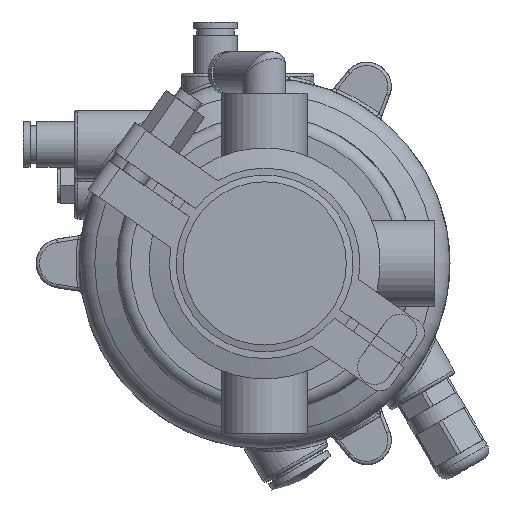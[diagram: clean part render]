
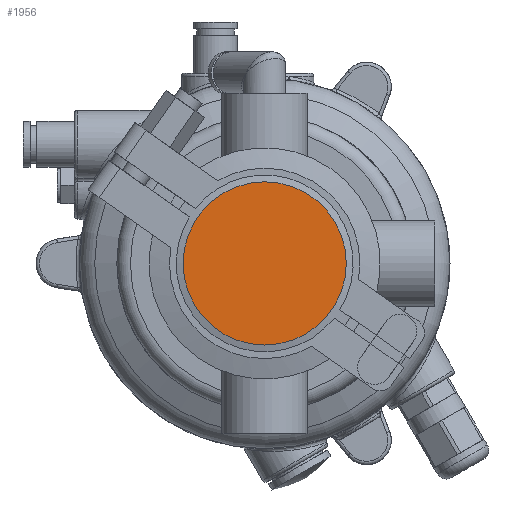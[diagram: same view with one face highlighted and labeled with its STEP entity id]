
A CAD part, front view. The second image highlights one B-rep face of the part: STEP entity #1956.
In plain terms, the highlighted planar face has unit normal (0, -1, 0).
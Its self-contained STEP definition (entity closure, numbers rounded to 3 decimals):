
#1956 = ADVANCED_FACE ( 'NONE', ( #6591 ), #19989, .T. ) ;
#5957 = VERTEX_POINT ( 'NONE', #52950 ) ;
#6303 = DIRECTION ( 'NONE',  ( 0., -1., 0. ) ) ;
#6591 = FACE_OUTER_BOUND ( 'NONE', #32027, .T. ) ;
#19989 = PLANE ( 'NONE',  #40364 ) ;
#21077 = AXIS2_PLACEMENT_3D ( 'NONE', #39176, #25437, #36306 ) ;
#25437 = DIRECTION ( 'NONE',  ( 0., 1., 0. ) ) ;
#29175 = DIRECTION ( 'NONE',  ( 0., 0., -1. ) ) ;
#32027 = EDGE_LOOP ( 'NONE', ( #35146 ) ) ;
#35146 = ORIENTED_EDGE ( 'NONE', *, *, #59036, .F. ) ;
#36306 = DIRECTION ( 'NONE',  ( 0., 0., 1. ) ) ;
#39176 = CARTESIAN_POINT ( 'NONE',  ( 0., 0., 0. ) ) ;
#40364 = AXIS2_PLACEMENT_3D ( 'NONE', #52696, #6303, #29175 ) ;
#47432 = CIRCLE ( 'NONE', #21077, 24. ) ;
#52696 = CARTESIAN_POINT ( 'NONE',  ( -24., 0., 0. ) ) ;
#52950 = CARTESIAN_POINT ( 'NONE',  ( 0., 0., 24. ) ) ;
#59036 = EDGE_CURVE ( 'NONE', #5957, #5957, #47432, .T. ) ;
